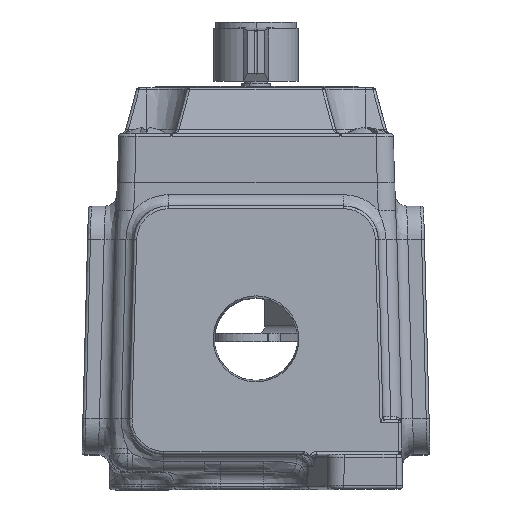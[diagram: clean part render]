
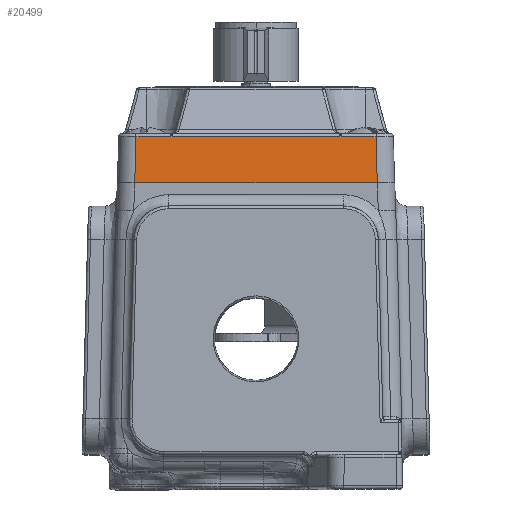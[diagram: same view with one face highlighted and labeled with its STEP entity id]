
A CAD part, top view. The second image highlights one B-rep face of the part: STEP entity #20499.
In plain terms, the highlighted planar face has unit normal (0, 0.026, 1) as drawn and (0, -1, 0.026) by its records, which use the part's own axes.
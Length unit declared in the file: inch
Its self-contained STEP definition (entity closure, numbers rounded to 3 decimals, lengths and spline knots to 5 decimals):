
#1310 = EDGE_CURVE ( 'NONE', #21286, #30049, #33764, .T. ) ;
#1622 = ORIENTED_EDGE ( 'NONE', *, *, #54045, .T. ) ;
#1767 = LINE ( 'NONE', #6607, #55609 ) ;
#3966 = CARTESIAN_POINT ( 'NONE',  ( -1.5, -2.3125, 0. ) ) ;
#5139 = CARTESIAN_POINT ( 'NONE',  ( -0.92296, -2.29857, 0.53207 ) ) ;
#6178 = CARTESIAN_POINT ( 'NONE',  ( -0.75, -2.29857, 0.53207 ) ) ;
#6569 = EDGE_CURVE ( 'NONE', #28088, #49292, #23670, .T. ) ;
#6607 = CARTESIAN_POINT ( 'NONE',  ( -0.71139, -2.29853, 0.53343 ) ) ;
#6677 = VERTEX_POINT ( 'NONE', #46723 ) ;
#7812 = CARTESIAN_POINT ( 'NONE',  ( -1.5, -2.31165, 0.0325 ) ) ;
#8040 = LINE ( 'NONE', #26351, #58015 ) ;
#9023 = CARTESIAN_POINT ( 'NONE',  ( -0.91229, -2.29856, 0.53252 ) ) ;
#9601 = EDGE_CURVE ( 'NONE', #11558, #30049, #19686, .T. ) ;
#10420 = CARTESIAN_POINT ( 'NONE',  ( 1.31171, -2.31165, 0.0325 ) ) ;
#10912 = DIRECTION ( 'NONE',  ( -0.026, 0.026, 0.999 ) ) ;
#11558 = VERTEX_POINT ( 'NONE', #23819 ) ;
#11868 = CARTESIAN_POINT ( 'NONE',  ( -1.31171, -2.31165, 0.0325 ) ) ;
#12080 = DIRECTION ( 'NONE',  ( 0., -0.026, -1. ) ) ;
#12804 = ORIENTED_EDGE ( 'NONE', *, *, #9601, .F. ) ;
#12905 = CARTESIAN_POINT ( 'NONE',  ( -0.92296, -2.29857, 0.53207 ) ) ;
#14123 = AXIS2_PLACEMENT_3D ( 'NONE', #3966, #54338, #12080 ) ;
#14449 = VECTOR ( 'NONE', #10912, 39.37008 ) ;
#16482 = LINE ( 'NONE', #7812, #20543 ) ;
#16861 = FACE_OUTER_BOUND ( 'NONE', #37475, .T. ) ;
#17165 = PLANE ( 'NONE',  #14123 ) ;
#17444 = CARTESIAN_POINT ( 'NONE',  ( -0.90702, -2.29853, 0.53343 ) ) ;
#17794 = CARTESIAN_POINT ( 'NONE',  ( 0.90702, -2.29853, 0.53343 ) ) ;
#19686 = LINE ( 'NONE', #6178, #48354 ) ;
#20499 = ADVANCED_FACE ( 'NONE', ( #16861 ), #17165, .T. ) ;
#20543 = VECTOR ( 'NONE', #39595, 39.37008 ) ;
#21286 = VERTEX_POINT ( 'NONE', #10420 ) ;
#21714 = CARTESIAN_POINT ( 'NONE',  ( -1.29863, -2.29857, 0.53207 ) ) ;
#21994 = CARTESIAN_POINT ( 'NONE',  ( 0.91229, -2.29856, 0.53252 ) ) ;
#22246 = ORIENTED_EDGE ( 'NONE', *, *, #55165, .T. ) ;
#23670 = B_SPLINE_CURVE_WITH_KNOTS ( 'NONE', 3,
 ( #26742, #9023, #54869, #12905 ),
 .UNSPECIFIED., .F., .F.,
 ( 4, 4 ),
 ( 0., 1. ),
 .UNSPECIFIED. ) ;
#23819 = CARTESIAN_POINT ( 'NONE',  ( 0.92296, -2.29857, 0.53207 ) ) ;
#23953 = EDGE_CURVE ( 'NONE', #28088, #6677, #1767, .T. ) ;
#26351 = CARTESIAN_POINT ( 'NONE',  ( -1.5, -2.29857, 0.53207 ) ) ;
#26742 = CARTESIAN_POINT ( 'NONE',  ( -0.90702, -2.29853, 0.53343 ) ) ;
#27116 = VERTEX_POINT ( 'NONE', #21714 ) ;
#28088 = VERTEX_POINT ( 'NONE', #17444 ) ;
#28145 = ORIENTED_EDGE ( 'NONE', *, *, #44227, .T. ) ;
#29610 = B_SPLINE_CURVE_WITH_KNOTS ( 'NONE', 3,
 ( #40608, #58898, #21994, #17794 ),
 .UNSPECIFIED., .F., .F.,
 ( 4, 4 ),
 ( 0., 1. ),
 .UNSPECIFIED. ) ;
#30049 = VERTEX_POINT ( 'NONE', #45320 ) ;
#30882 = DIRECTION ( 'NONE',  ( -0.026, -0.026, -0.999 ) ) ;
#33764 = LINE ( 'NONE', #52005, #14449 ) ;
#36083 = VERTEX_POINT ( 'NONE', #11868 ) ;
#37475 = EDGE_LOOP ( 'NONE', ( #22246, #28145, #44914, #56295, #12804, #1622, #37734, #39137 ) ) ;
#37734 = ORIENTED_EDGE ( 'NONE', *, *, #23953, .F. ) ;
#39137 = ORIENTED_EDGE ( 'NONE', *, *, #6569, .T. ) ;
#39595 = DIRECTION ( 'NONE',  ( 1., 0., 0. ) ) ;
#40154 = CARTESIAN_POINT ( 'NONE',  ( -1.29863, -2.29857, 0.53207 ) ) ;
#40608 = CARTESIAN_POINT ( 'NONE',  ( 0.92296, -2.29857, 0.53207 ) ) ;
#40836 = EDGE_CURVE ( 'NONE', #36083, #21286, #16482, .T. ) ;
#44227 = EDGE_CURVE ( 'NONE', #27116, #36083, #59053, .T. ) ;
#44914 = ORIENTED_EDGE ( 'NONE', *, *, #40836, .T. ) ;
#45219 = DIRECTION ( 'NONE',  ( -1., 0., 0. ) ) ;
#45320 = CARTESIAN_POINT ( 'NONE',  ( 1.29863, -2.29857, 0.53207 ) ) ;
#46723 = CARTESIAN_POINT ( 'NONE',  ( 0.90702, -2.29853, 0.53343 ) ) ;
#48354 = VECTOR ( 'NONE', #56297, 39.37008 ) ;
#49292 = VERTEX_POINT ( 'NONE', #5139 ) ;
#52005 = CARTESIAN_POINT ( 'NONE',  ( 1.31171, -2.31165, 0.0325 ) ) ;
#52486 = DIRECTION ( 'NONE',  ( 1., 0., 0. ) ) ;
#54045 = EDGE_CURVE ( 'NONE', #11558, #6677, #29610, .T. ) ;
#54338 = DIRECTION ( 'NONE',  ( 0., -1., 0.026 ) ) ;
#54869 = CARTESIAN_POINT ( 'NONE',  ( -0.91761, -2.29857, 0.53207 ) ) ;
#55165 = EDGE_CURVE ( 'NONE', #49292, #27116, #8040, .T. ) ;
#55609 = VECTOR ( 'NONE', #52486, 39.37008 ) ;
#56295 = ORIENTED_EDGE ( 'NONE', *, *, #1310, .T. ) ;
#56297 = DIRECTION ( 'NONE',  ( 1., 0., 0. ) ) ;
#58015 = VECTOR ( 'NONE', #45219, 39.37008 ) ;
#58898 = CARTESIAN_POINT ( 'NONE',  ( 0.91761, -2.29857, 0.53207 ) ) ;
#59053 = LINE ( 'NONE', #40154, #59284 ) ;
#59284 = VECTOR ( 'NONE', #30882, 39.37008 ) ;
